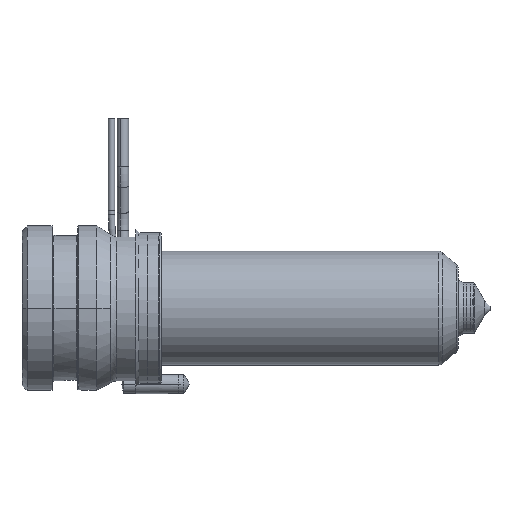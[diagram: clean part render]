
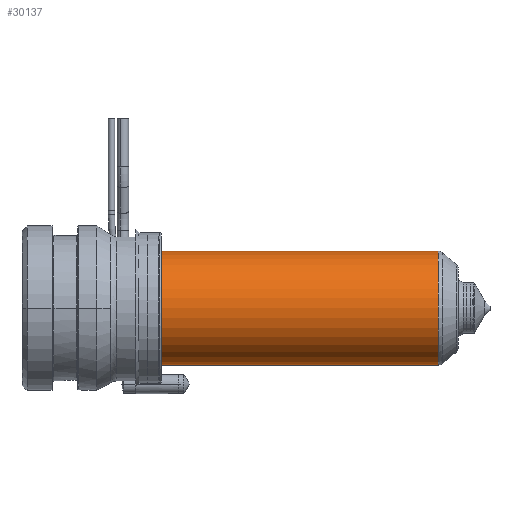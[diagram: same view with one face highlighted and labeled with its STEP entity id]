
A CAD part, left-side view. The second image highlights one B-rep face of the part: STEP entity #30137.
In plain terms, the highlighted cylindrical face has radius 9 mm (diameter 18 mm), a partial arc.
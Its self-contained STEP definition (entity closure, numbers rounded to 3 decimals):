
#29535=CARTESIAN_POINT('',(0.,-65.836,0.));
#29536=DIRECTION('',(0.,-1.,0.));
#29537=DIRECTION('',(0.,0.,1.));
#29538=AXIS2_PLACEMENT_3D('',#29535,#29536,#29537);
#29540=CARTESIAN_POINT('',(0.,-22.,0.));
#29541=DIRECTION('',(0.,1.,0.));
#29542=DIRECTION('',(0.,0.,-1.));
#29543=AXIS2_PLACEMENT_3D('',#29540,#29541,#29542);
#29545=DIRECTION('',(0.,1.,0.));
#29546=VECTOR('',#29545,43.836);
#29547=CARTESIAN_POINT('',(0.,-65.836,9.));
#29548=LINE('',#29547,#29546);
#29554=DIRECTION('',(0.,1.,0.));
#29555=VECTOR('',#29554,43.836);
#29556=CARTESIAN_POINT('',(0.,-65.836,-9.));
#29557=LINE('',#29556,#29555);
#29680=CARTESIAN_POINT('',(0.,-65.836,9.));
#29681=CARTESIAN_POINT('',(0.,-22.,9.));
#29682=VERTEX_POINT('',#29680);
#29683=VERTEX_POINT('',#29681);
#29684=CARTESIAN_POINT('',(0.,-65.836,-9.));
#29685=CARTESIAN_POINT('',(0.,-22.,-9.));
#29686=VERTEX_POINT('',#29684);
#29687=VERTEX_POINT('',#29685);
#30123=CARTESIAN_POINT('',(0.,-15.2,0.));
#30124=DIRECTION('',(0.,-1.,0.));
#30125=DIRECTION('',(0.,0.,1.));
#30126=AXIS2_PLACEMENT_3D('',#30123,#30124,#30125);
#30127=CYLINDRICAL_SURFACE('',#30126,9.);
#30129=ORIENTED_EDGE('',*,*,#30128,.F.);
#30130=ORIENTED_EDGE('',*,*,#30111,.T.);
#30132=ORIENTED_EDGE('',*,*,#30131,.T.);
#30134=ORIENTED_EDGE('',*,*,#30133,.T.);
#30135=EDGE_LOOP('',(#30129,#30130,#30132,#30134));
#30136=FACE_OUTER_BOUND('',#30135,.F.);
#30137=ADVANCED_FACE('',(#30136),#30127,.T.);
#29539=CIRCLE('',#29538,9.);
#29544=CIRCLE('',#29543,9.);
#30111=EDGE_CURVE('',#29682,#29686,#29539,.T.);
#30128=EDGE_CURVE('',#29682,#29683,#29548,.T.);
#30131=EDGE_CURVE('',#29686,#29687,#29557,.T.);
#30133=EDGE_CURVE('',#29687,#29683,#29544,.T.);
